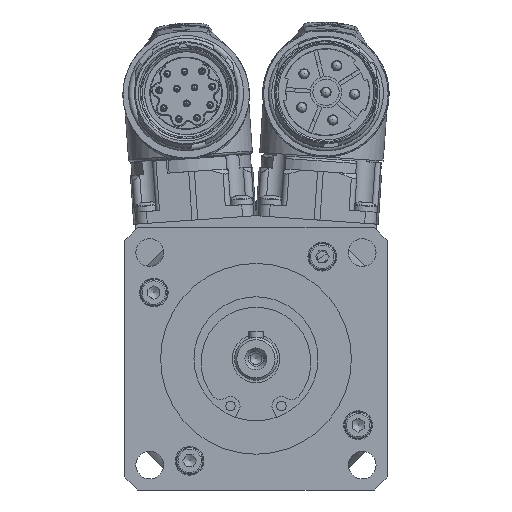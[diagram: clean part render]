
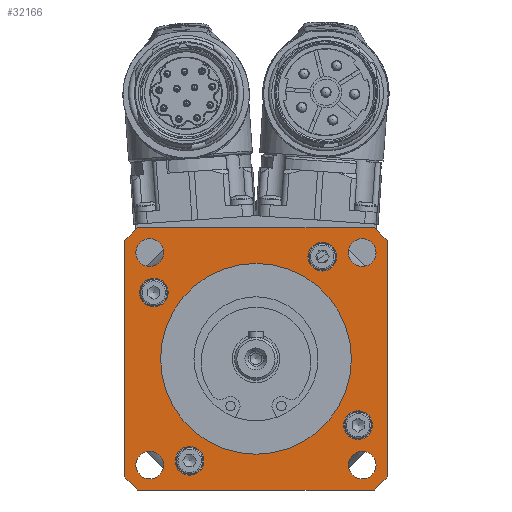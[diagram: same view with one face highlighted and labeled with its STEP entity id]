
A CAD part, left-side view. The second image highlights one B-rep face of the part: STEP entity #32166.
In plain terms, the highlighted planar face has unit normal (-1, 0, 0).
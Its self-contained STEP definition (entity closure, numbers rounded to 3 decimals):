
#1466=FACE_BOUND('',#4186,.T.);
#1467=FACE_BOUND('',#4187,.T.);
#1468=FACE_BOUND('',#4188,.T.);
#1469=FACE_BOUND('',#4189,.T.);
#1470=FACE_BOUND('',#4190,.T.);
#1471=FACE_BOUND('',#4191,.T.);
#1472=FACE_BOUND('',#4192,.T.);
#1473=FACE_BOUND('',#4193,.T.);
#1474=FACE_BOUND('',#4194,.T.);
#1717=PLANE('',#34501);
#2298=FACE_OUTER_BOUND('',#4185,.T.);
#4185=EDGE_LOOP('',(#20415,#20416,#20417,#20418,#20419,#20420,#20421,#20422));
#4186=EDGE_LOOP('',(#20423));
#4187=EDGE_LOOP('',(#20424));
#4188=EDGE_LOOP('',(#20425));
#4189=EDGE_LOOP('',(#20426));
#4190=EDGE_LOOP('',(#20427));
#4191=EDGE_LOOP('',(#20428));
#4192=EDGE_LOOP('',(#20429));
#4193=EDGE_LOOP('',(#20430));
#4194=EDGE_LOOP('',(#20431,#20432));
#6439=CIRCLE('',#34454,37.);
#6440=CIRCLE('',#34456,37.);
#6441=CIRCLE('',#34460,2.9);
#6442=CIRCLE('',#34462,2.9);
#6443=CIRCLE('',#34464,2.9);
#6444=CIRCLE('',#34466,2.9);
#6446=CIRCLE('',#34470,3.);
#6450=CIRCLE('',#34477,3.);
#6454=CIRCLE('',#34484,3.);
#6458=CIRCLE('',#34491,3.);
#6461=CIRCLE('',#34496,37.);
#6462=CIRCLE('',#34499,37.);
#6463=CIRCLE('',#34502,20.);
#6464=CIRCLE('',#34503,20.);
#8606=LINE('',#48585,#10216);
#8608=LINE('',#48588,#10218);
#8622=LINE('',#48663,#10232);
#8625=LINE('',#48670,#10235);
#10216=VECTOR('',#38897,10.);
#10218=VECTOR('',#38901,10.);
#10232=VECTOR('',#38993,10.);
#10235=VECTOR('',#39002,10.);
#11932=VERTEX_POINT('',#48572);
#11933=VERTEX_POINT('',#48573);
#11934=VERTEX_POINT('',#48578);
#11935=VERTEX_POINT('',#48579);
#11936=VERTEX_POINT('',#48584);
#11937=VERTEX_POINT('',#48590);
#11938=VERTEX_POINT('',#48594);
#11939=VERTEX_POINT('',#48598);
#11940=VERTEX_POINT('',#48602);
#11942=VERTEX_POINT('',#48610);
#11946=VERTEX_POINT('',#48623);
#11950=VERTEX_POINT('',#48636);
#11954=VERTEX_POINT('',#48649);
#11957=VERTEX_POINT('',#48658);
#11958=VERTEX_POINT('',#48662);
#11959=VERTEX_POINT('',#48666);
#11960=VERTEX_POINT('',#48672);
#11961=VERTEX_POINT('',#48673);
#15158=EDGE_CURVE('',#11932,#11933,#6439,.T.);
#15161=EDGE_CURVE('',#11934,#11935,#6440,.T.);
#15164=EDGE_CURVE('',#11936,#11934,#8606,.T.);
#15166=EDGE_CURVE('',#11935,#11932,#8608,.T.);
#15167=EDGE_CURVE('',#11937,#11937,#6441,.T.);
#15169=EDGE_CURVE('',#11938,#11938,#6442,.T.);
#15171=EDGE_CURVE('',#11939,#11939,#6443,.T.);
#15173=EDGE_CURVE('',#11940,#11940,#6444,.T.);
#15177=EDGE_CURVE('',#11942,#11942,#6446,.T.);
#15183=EDGE_CURVE('',#11946,#11946,#6450,.T.);
#15189=EDGE_CURVE('',#11950,#11950,#6454,.T.);
#15195=EDGE_CURVE('',#11954,#11954,#6458,.T.);
#15199=EDGE_CURVE('',#11957,#11936,#6461,.T.);
#15201=EDGE_CURVE('',#11958,#11957,#8622,.T.);
#15203=EDGE_CURVE('',#11959,#11958,#6462,.T.);
#15205=EDGE_CURVE('',#11933,#11959,#8625,.T.);
#15206=EDGE_CURVE('',#11960,#11961,#6463,.T.);
#15207=EDGE_CURVE('',#11961,#11960,#6464,.T.);
#20415=ORIENTED_EDGE('',*,*,#15164,.F.);
#20416=ORIENTED_EDGE('',*,*,#15199,.F.);
#20417=ORIENTED_EDGE('',*,*,#15201,.F.);
#20418=ORIENTED_EDGE('',*,*,#15203,.F.);
#20419=ORIENTED_EDGE('',*,*,#15205,.F.);
#20420=ORIENTED_EDGE('',*,*,#15158,.F.);
#20421=ORIENTED_EDGE('',*,*,#15166,.F.);
#20422=ORIENTED_EDGE('',*,*,#15161,.F.);
#20423=ORIENTED_EDGE('',*,*,#15195,.F.);
#20424=ORIENTED_EDGE('',*,*,#15189,.F.);
#20425=ORIENTED_EDGE('',*,*,#15183,.F.);
#20426=ORIENTED_EDGE('',*,*,#15177,.F.);
#20427=ORIENTED_EDGE('',*,*,#15173,.F.);
#20428=ORIENTED_EDGE('',*,*,#15171,.F.);
#20429=ORIENTED_EDGE('',*,*,#15169,.F.);
#20430=ORIENTED_EDGE('',*,*,#15167,.F.);
#20431=ORIENTED_EDGE('',*,*,#15206,.F.);
#20432=ORIENTED_EDGE('',*,*,#15207,.F.);
#32166=ADVANCED_FACE('',(#2298,#1466,#1467,#1468,#1469,#1470,#1471,#1472,
#1473,#1474),#1717,.F.);
#34454=AXIS2_PLACEMENT_3D('',#48574,#38885,#38886);
#34456=AXIS2_PLACEMENT_3D('',#48580,#38891,#38892);
#34460=AXIS2_PLACEMENT_3D('',#48591,#38904,#38905);
#34462=AXIS2_PLACEMENT_3D('',#48595,#38909,#38910);
#34464=AXIS2_PLACEMENT_3D('',#48599,#38914,#38915);
#34466=AXIS2_PLACEMENT_3D('',#48603,#38919,#38920);
#34470=AXIS2_PLACEMENT_3D('',#48611,#38929,#38930);
#34477=AXIS2_PLACEMENT_3D('',#48624,#38945,#38946);
#34484=AXIS2_PLACEMENT_3D('',#48637,#38961,#38962);
#34491=AXIS2_PLACEMENT_3D('',#48650,#38977,#38978);
#34496=AXIS2_PLACEMENT_3D('',#48659,#38988,#38989);
#34499=AXIS2_PLACEMENT_3D('',#48667,#38997,#38998);
#34501=AXIS2_PLACEMENT_3D('',#48671,#39003,#39004);
#34502=AXIS2_PLACEMENT_3D('',#48674,#39005,#39006);
#34503=AXIS2_PLACEMENT_3D('',#48675,#39007,#39008);
#38885=DIRECTION('center_axis',(1.,0.,0.));
#38886=DIRECTION('ref_axis',(0.,0.,
1.));
#38891=DIRECTION('center_axis',(1.,0.,0.));
#38892=DIRECTION('ref_axis',(0.,0.,
1.));
#38897=DIRECTION('',(0.,-1.,0.));
#38901=DIRECTION('',(0.,0.,-1.));
#38904=DIRECTION('center_axis',(-1.,0.,0.));
#38905=DIRECTION('ref_axis',(0.,-1.,0.));
#38909=DIRECTION('center_axis',(-1.,0.,0.));
#38910=DIRECTION('ref_axis',(0.,0.,
-1.));
#38914=DIRECTION('center_axis',(-1.,0.,0.));
#38915=DIRECTION('ref_axis',(0.,1.,0.));
#38919=DIRECTION('center_axis',(-1.,0.,0.));
#38920=DIRECTION('ref_axis',(0.,0.,
1.));
#38929=DIRECTION('center_axis',(-1.,0.,0.));
#38930=DIRECTION('ref_axis',(0.,-1.,0.));
#38945=DIRECTION('center_axis',(-1.,0.,0.));
#38946=DIRECTION('ref_axis',(0.,0.,
-1.));
#38961=DIRECTION('center_axis',(-1.,0.,0.));
#38962=DIRECTION('ref_axis',(0.,1.,0.));
#38977=DIRECTION('center_axis',(-1.,0.,0.));
#38978=DIRECTION('ref_axis',(0.,0.,
1.));
#38988=DIRECTION('center_axis',(1.,0.,0.));
#38989=DIRECTION('ref_axis',(0.,0.,
1.));
#38993=DIRECTION('',(0.,0.,1.));
#38997=DIRECTION('center_axis',(1.,0.,0.));
#38998=DIRECTION('ref_axis',(0.,0.,
1.));
#39002=DIRECTION('',(0.,1.,0.));
#39003=DIRECTION('center_axis',(1.,0.,0.));
#39004=DIRECTION('ref_axis',(0.,0.,
-1.));
#39005=DIRECTION('center_axis',(-1.,0.,0.));
#39006=DIRECTION('ref_axis',(0.,0.,
1.));
#39007=DIRECTION('center_axis',(-1.,0.,0.));
#39008=DIRECTION('ref_axis',(0.,0.,
1.));
#48572=CARTESIAN_POINT('',(-24.75,-27.5,-24.754));
#48573=CARTESIAN_POINT('',(-24.75,-24.754,-27.5));
#48574=CARTESIAN_POINT('Origin',(-24.75,0.,0.));
#48578=CARTESIAN_POINT('',(-24.75,-24.754,27.5));
#48579=CARTESIAN_POINT('',(-24.75,-27.5,24.754));
#48580=CARTESIAN_POINT('Origin',(-24.75,0.,0.));
#48584=CARTESIAN_POINT('',(-24.75,24.754,27.5));
#48585=CARTESIAN_POINT('',(-24.75,13.75,27.5));
#48588=CARTESIAN_POINT('',(-24.75,-27.5,38.704));
#48590=CARTESIAN_POINT('',(-24.75,25.174,22.274));
#48591=CARTESIAN_POINT('Origin',(-24.75,22.274,22.274));
#48594=CARTESIAN_POINT('',(-24.75,-22.274,25.174));
#48595=CARTESIAN_POINT('Origin',(-24.75,-22.274,22.274));
#48598=CARTESIAN_POINT('',(-24.75,-25.174,-22.274));
#48599=CARTESIAN_POINT('Origin',(-24.75,-22.274,-22.274));
#48602=CARTESIAN_POINT('',(-24.75,22.274,-25.174));
#48603=CARTESIAN_POINT('Origin',(-24.75,22.274,-22.274));
#48610=CARTESIAN_POINT('',(-24.75,-10.9,21.4));
#48611=CARTESIAN_POINT('Origin',(-24.75,-13.9,21.4));
#48623=CARTESIAN_POINT('',(-24.75,-21.4,-10.9));
#48624=CARTESIAN_POINT('Origin',(-24.75,-21.4,-13.9));
#48636=CARTESIAN_POINT('',(-24.75,10.9,-21.4));
#48637=CARTESIAN_POINT('Origin',(-24.75,13.9,-21.4));
#48649=CARTESIAN_POINT('',(-24.75,21.4,10.9));
#48650=CARTESIAN_POINT('Origin',(-24.75,21.4,13.9));
#48658=CARTESIAN_POINT('',(-24.75,27.5,24.754));
#48659=CARTESIAN_POINT('Origin',(-24.75,0.,0.));
#48662=CARTESIAN_POINT('',(-24.75,27.5,-24.754));
#48663=CARTESIAN_POINT('',(-24.75,27.5,11.204));
#48666=CARTESIAN_POINT('',(-24.75,24.754,-27.5));
#48667=CARTESIAN_POINT('Origin',(-24.75,0.,0.));
#48670=CARTESIAN_POINT('',(-24.75,-13.75,-27.5));
#48671=CARTESIAN_POINT('Origin',(-24.75,0.,49.909));
#48672=CARTESIAN_POINT('',(-24.75,0.,20.));
#48673=CARTESIAN_POINT('',(-24.75,0.,-20.));
#48674=CARTESIAN_POINT('Origin',(-24.75,0.,0.));
#48675=CARTESIAN_POINT('Origin',(-24.75,0.,0.));
